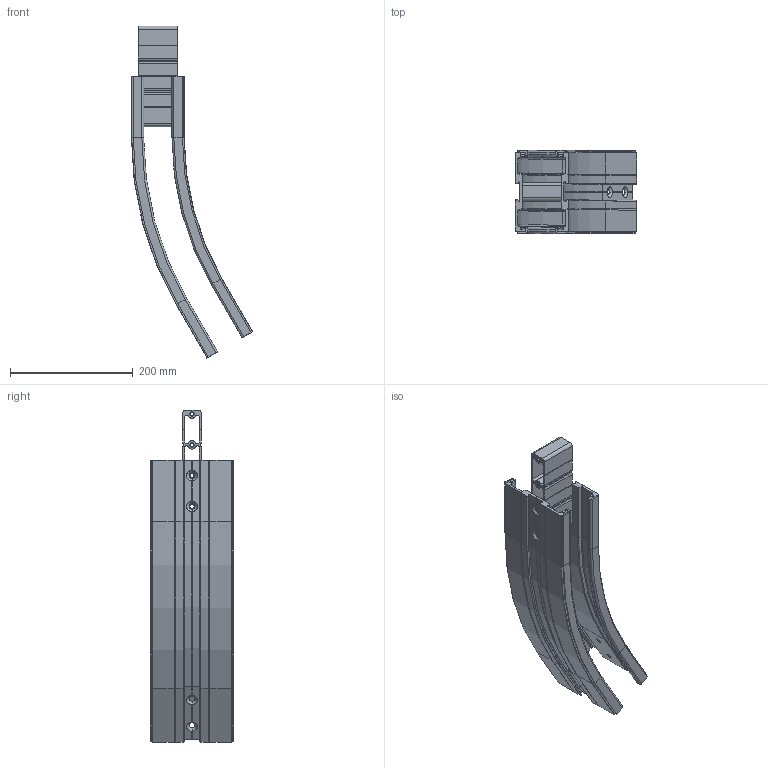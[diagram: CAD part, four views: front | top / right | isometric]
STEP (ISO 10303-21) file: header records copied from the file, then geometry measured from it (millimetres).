
FILE_DESCRIPTION (( 'STEP AP203' ), '1' );
FILE_NAME ('R2C500-30.STEP', '2008-12-02T09:29:04', ( 'faber' ), ( '' ), 'SwSTEP 2.0', 'SolidWorks 2008', '' );
FILE_SCHEMA (( 'CONFIG_CONTROL_DESIGN' ));
Length unit declared in the file: millimetre
Products named in the file (1): R2C500-30
Bounding box: 197.23 x 135 x 539.85 mm (x, y, z)
Surface area: 432988.4 mm2 (no closed solid volume)
Topology: 0 solids, 21 shells, 515 faces, 1739 edges, 1194 vertices
Faces by surface type: plane 243, cylinder 208, torus 36, cone 28
Entity records: 18744 total; most frequent: CARTESIAN_POINT 3545, DIRECTION 3337, ORIENTED_EDGE 2762, EDGE_CURVE 1739, VERTEX_POINT 1194, AXIS2_PLACEMENT_3D 1114, VECTOR 1109, LINE 1109
